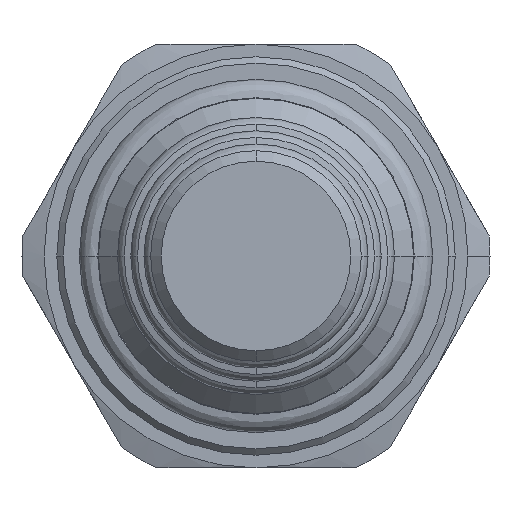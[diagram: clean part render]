
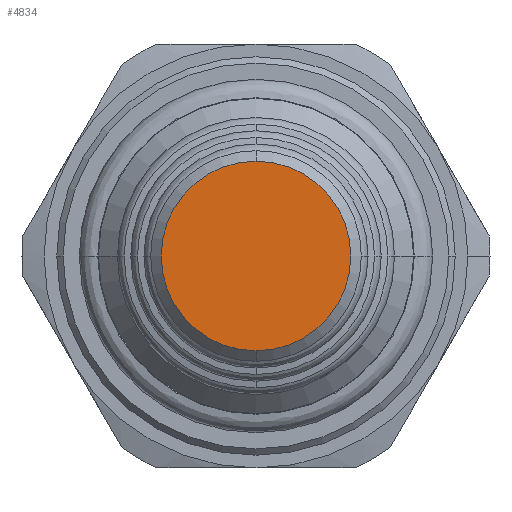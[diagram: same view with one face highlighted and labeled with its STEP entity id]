
A CAD part, front view. The second image highlights one B-rep face of the part: STEP entity #4834.
In plain terms, the highlighted planar face has unit normal (0, -1, 0).
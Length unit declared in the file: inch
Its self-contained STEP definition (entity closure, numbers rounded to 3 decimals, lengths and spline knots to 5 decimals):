
#1913=CARTESIAN_POINT('',(0.,-2.148,0.));
#1914=DIRECTION('',(0.,-1.,0.));
#1915=DIRECTION('',(0.,0.,1.));
#1916=AXIS2_PLACEMENT_3D('',#1913,#1914,#1915);
#1923=CARTESIAN_POINT('',(0.,-2.148,0.));
#1924=DIRECTION('',(0.,-1.,0.));
#1925=DIRECTION('',(0.,0.,-1.));
#1926=AXIS2_PLACEMENT_3D('',#1923,#1924,#1925);
#2069=CARTESIAN_POINT('',(0.,-2.148,0.2235));
#2070=CARTESIAN_POINT('',(0.,-2.148,-0.2235));
#2071=VERTEX_POINT('',#2069);
#2072=VERTEX_POINT('',#2070);
#4824=CARTESIAN_POINT('',(0.,-2.148,0.));
#4825=DIRECTION('',(0.,-1.,0.));
#4826=DIRECTION('',(-1.,0.,0.));
#4827=AXIS2_PLACEMENT_3D('',#4824,#4825,#4826);
#4828=PLANE('',#4827);
#4830=ORIENTED_EDGE('',*,*,#4829,.F.);
#4831=ORIENTED_EDGE('',*,*,#4814,.F.);
#4832=EDGE_LOOP('',(#4830,#4831));
#4833=FACE_OUTER_BOUND('',#4832,.F.);
#4834=ADVANCED_FACE('',(#4833),#4828,.T.);
#1917=CIRCLE('',#1916,0.2235);
#1927=CIRCLE('',#1926,0.2235);
#4814=EDGE_CURVE('',#2071,#2072,#1917,.T.);
#4829=EDGE_CURVE('',#2072,#2071,#1927,.T.);
